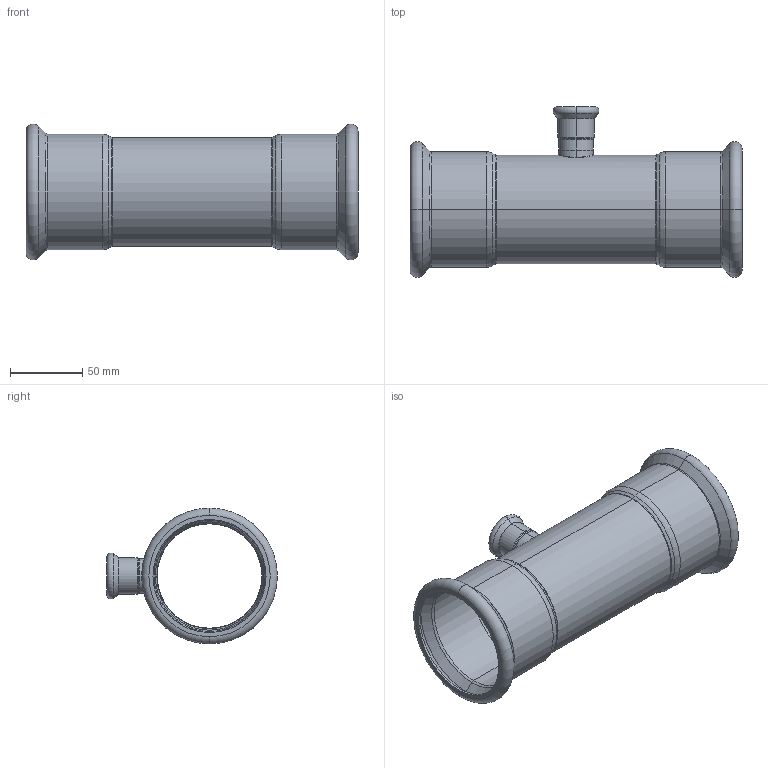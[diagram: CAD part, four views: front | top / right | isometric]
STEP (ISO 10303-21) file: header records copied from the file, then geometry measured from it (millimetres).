
FILE_DESCRIPTION (( 'STEP AP203' ), '1' );
FILE_NAME ('GDA5212.STEP', '2019-01-12T05:56:53', ( '' ), ( '' ), 'SwSTEP 2.0', 'SolidWorks 2015', '' );
FILE_SCHEMA (( 'CONFIG_CONTROL_DESIGN' ));
Length unit declared in the file: millimetre
Products named in the file (3): GDA5212; T-ｉ-01-22; T(R)-¢ñ-76.1¡Á22''
Assembly tree (2 placements, depth 2):
  GDA5212
    T(R)-¢ñ-76.1¡Á22''
    T-ｉ-01-22
Bounding box: 229 x 117.84 x 93.68 mm (x, y, z)
Volume: 93012.3 mm3; surface area: 124879.2 mm2
Topology: 2 solids, 2 shells, 114 faces, 234 edges, 128 vertices
Faces by surface type: torus 48, cylinder 30, cone 24, plane 8, bspline 4
Entity records: 4272 total; most frequent: CARTESIAN_POINT 1482, DIRECTION 620, ORIENTED_EDGE 468, AXIS2_PLACEMENT_3D 283, EDGE_CURVE 234, CIRCLE 168, VERTEX_POINT 128, EDGE_LOOP 124
